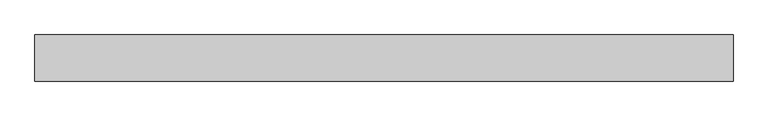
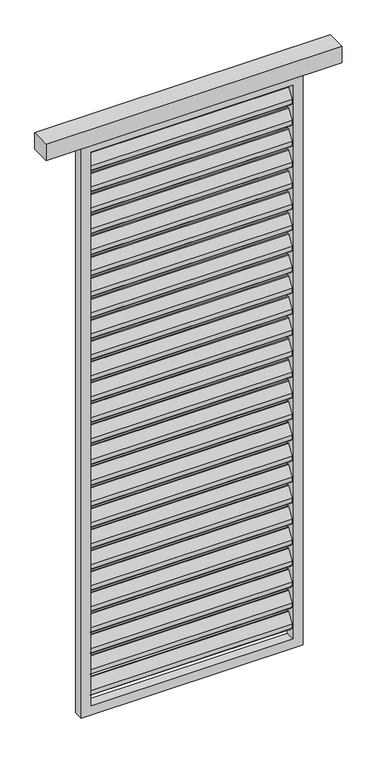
"""IFC4 building model written with IfcOpenShell, lengths in millimetres: proxy geometry."""

from ifc_helpers import new_model, si_unit, point, frame, frame_2d, origin, place, context, project, spatial, polyline, circle_curve, trimmed, segment, composite_curve, outline, extrude, source, transform, mapped, element, save


def generic_models_514cf80f(model_context):
    return source(origin(), model_context, "Body", "SweptSolid", [
        extrude(outline(polyline([(600.0, 46.0), (600.0, -34.0), (-600.0, -34.0), (-600.0, 46.0), (600.0, 46.0)])), frame((0.0, 0.0, 2500.0), z_axis=(0.0, 0.0, 1.0), x_axis=(1.0, 0.0, 0.0)), (0.0, 0.0, 1.0), 70.0),
        extrude(outline(composite_curve([segment(trimmed(circle_curve(frame_2d((12.6675921, 2432.6587719)), 3.0), [point((10.1515804, 2434.292689))], [point((15.6675921, 2432.6587719))], False, "CARTESIAN"), True, "CONTINUOUS"), segment(polyline([(15.6675921, 2432.6587719), (15.6675921, 2414.2979873)]), True, "CONTINUOUS"), segment(trimmed(circle_curve(frame_2d((12.6675921, 2414.2979873)), 3.0), [point((15.6675921, 2414.2979873))], [point((15.1836038, 2412.6640702))], False, "CARTESIAN"), True, "CONTINUOUS"), segment(polyline([(15.1836038, 2412.6640702), (-8.8163962, 2375.707311)]), True, "CONTINUOUS"), segment(trimmed(circle_curve(frame_2d((-11.3324079, 2377.3412281)), 3.0), [point((-8.8163962, 2375.707311))], [point((-14.3324079, 2377.3412281))], False, "CARTESIAN"), True, "CONTINUOUS"), segment(polyline([(-14.3324079, 2377.3412281), (-14.3324079, 2396.5906532), (10.1515804, 2434.292689)]), True, "CONTINUOUS")], self_intersect=False)), frame((-410.0, 0.0, 0.0), z_axis=(1.0, 0.0, 0.0), x_axis=(0.0, 1.0, 0.0)), (0.0, 0.0, 1.0), 820.0),
        extrude(outline(composite_curve([segment(trimmed(circle_curve(frame_2d((12.6675921, 2342.6587719)), 3.0), [point((10.1515804, 2344.292689))], [point((15.6675921, 2342.6587719))], False, "CARTESIAN"), True, "CONTINUOUS"), segment(polyline([(15.6675921, 2342.6587719), (15.6675921, 2324.2979873)]), True, "CONTINUOUS"), segment(trimmed(circle_curve(frame_2d((12.6675921, 2324.2979873)), 3.0), [point((15.6675921, 2324.2979873))], [point((15.1836038, 2322.6640702))], False, "CARTESIAN"), True, "CONTINUOUS"), segment(polyline([(15.1836038, 2322.6640702), (-8.8163962, 2285.707311)]), True, "CONTINUOUS"), segment(trimmed(circle_curve(frame_2d((-11.3324079, 2287.3412281)), 3.0), [point((-8.8163962, 2285.707311))], [point((-14.3324079, 2287.3412281))], False, "CARTESIAN"), True, "CONTINUOUS"), segment(polyline([(-14.3324079, 2287.3412281), (-14.3324079, 2306.5906532), (10.1515804, 2344.292689)]), True, "CONTINUOUS")], self_intersect=False)), frame((-410.0, 0.0, 0.0), z_axis=(1.0, 0.0, 0.0), x_axis=(0.0, 1.0, 0.0)), (0.0, 0.0, 1.0), 820.0),
        extrude(outline(composite_curve([segment(trimmed(circle_curve(frame_2d((12.6675921, 2252.6587719)), 3.0), [point((10.1515804, 2254.292689))], [point((15.6675921, 2252.6587719))], False, "CARTESIAN"), True, "CONTINUOUS"), segment(polyline([(15.6675921, 2252.6587719), (15.6675921, 2234.2979873)]), True, "CONTINUOUS"), segment(trimmed(circle_curve(frame_2d((12.6675921, 2234.2979873)), 3.0), [point((15.6675921, 2234.2979873))], [point((15.1836038, 2232.6640702))], False, "CARTESIAN"), True, "CONTINUOUS"), segment(polyline([(15.1836038, 2232.6640702), (-8.8163962, 2195.707311)]), True, "CONTINUOUS"), segment(trimmed(circle_curve(frame_2d((-11.3324079, 2197.3412281)), 3.0), [point((-8.8163962, 2195.707311))], [point((-14.3324079, 2197.3412281))], False, "CARTESIAN"), True, "CONTINUOUS"), segment(polyline([(-14.3324079, 2197.3412281), (-14.3324079, 2216.5906532), (10.1515804, 2254.292689)]), True, "CONTINUOUS")], self_intersect=False)), frame((-410.0, 0.0, 0.0), z_axis=(1.0, 0.0, 0.0), x_axis=(0.0, 1.0, 0.0)), (0.0, 0.0, 1.0), 820.0),
        extrude(outline(composite_curve([segment(trimmed(circle_curve(frame_2d((12.6675921, 2162.6587719)), 3.0), [point((10.1515804, 2164.292689))], [point((15.6675921, 2162.6587719))], False, "CARTESIAN"), True, "CONTINUOUS"), segment(polyline([(15.6675921, 2162.6587719), (15.6675921, 2144.2979873)]), True, "CONTINUOUS"), segment(trimmed(circle_curve(frame_2d((12.6675921, 2144.2979873)), 3.0), [point((15.6675921, 2144.2979873))], [point((15.1836038, 2142.6640702))], False, "CARTESIAN"), True, "CONTINUOUS"), segment(polyline([(15.1836038, 2142.6640702), (-8.8163962, 2105.707311)]), True, "CONTINUOUS"), segment(trimmed(circle_curve(frame_2d((-11.3324079, 2107.3412281)), 3.0), [point((-8.8163962, 2105.707311))], [point((-14.3324079, 2107.3412281))], False, "CARTESIAN"), True, "CONTINUOUS"), segment(polyline([(-14.3324079, 2107.3412281), (-14.3324079, 2126.5906532), (10.1515804, 2164.292689)]), True, "CONTINUOUS")], self_intersect=False)), frame((-410.0, 0.0, 0.0), z_axis=(1.0, 0.0, 0.0), x_axis=(0.0, 1.0, 0.0)), (0.0, 0.0, 1.0), 820.0),
        extrude(outline(composite_curve([segment(trimmed(circle_curve(frame_2d((12.6675921, 2072.6587719)), 3.0), [point((10.1515804, 2074.292689))], [point((15.6675921, 2072.6587719))], False, "CARTESIAN"), True, "CONTINUOUS"), segment(polyline([(15.6675921, 2072.6587719), (15.6675921, 2054.2979873)]), True, "CONTINUOUS"), segment(trimmed(circle_curve(frame_2d((12.6675921, 2054.2979873)), 3.0), [point((15.6675921, 2054.2979873))], [point((15.1836038, 2052.6640702))], False, "CARTESIAN"), True, "CONTINUOUS"), segment(polyline([(15.1836038, 2052.6640702), (-8.8163962, 2015.707311)]), True, "CONTINUOUS"), segment(trimmed(circle_curve(frame_2d((-11.3324079, 2017.3412281)), 3.0), [point((-8.8163962, 2015.707311))], [point((-14.3324079, 2017.3412281))], False, "CARTESIAN"), True, "CONTINUOUS"), segment(polyline([(-14.3324079, 2017.3412281), (-14.3324079, 2036.5906532), (10.1515804, 2074.292689)]), True, "CONTINUOUS")], self_intersect=False)), frame((-410.0, 0.0, 0.0), z_axis=(1.0, 0.0, 0.0), x_axis=(0.0, 1.0, 0.0)), (0.0, 0.0, 1.0), 820.0),
        extrude(outline(composite_curve([segment(trimmed(circle_curve(frame_2d((12.6675921, 1982.6587719)), 3.0), [point((10.1515804, 1984.292689))], [point((15.6675921, 1982.6587719))], False, "CARTESIAN"), True, "CONTINUOUS"), segment(polyline([(15.6675921, 1982.6587719), (15.6675921, 1964.2979873)]), True, "CONTINUOUS"), segment(trimmed(circle_curve(frame_2d((12.6675921, 1964.2979873)), 3.0), [point((15.6675921, 1964.2979873))], [point((15.1836038, 1962.6640702))], False, "CARTESIAN"), True, "CONTINUOUS"), segment(polyline([(15.1836038, 1962.6640702), (-8.8163962, 1925.707311)]), True, "CONTINUOUS"), segment(trimmed(circle_curve(frame_2d((-11.3324079, 1927.3412281)), 3.0), [point((-8.8163962, 1925.707311))], [point((-14.3324079, 1927.3412281))], False, "CARTESIAN"), True, "CONTINUOUS"), segment(polyline([(-14.3324079, 1927.3412281), (-14.3324079, 1946.5906532), (10.1515804, 1984.292689)]), True, "CONTINUOUS")], self_intersect=False)), frame((-410.0, 0.0, 0.0), z_axis=(1.0, 0.0, 0.0), x_axis=(0.0, 1.0, 0.0)), (0.0, 0.0, 1.0), 820.0),
        extrude(outline(composite_curve([segment(trimmed(circle_curve(frame_2d((12.6675921, 1892.6587719)), 3.0), [point((10.1515804, 1894.292689))], [point((15.6675921, 1892.6587719))], False, "CARTESIAN"), True, "CONTINUOUS"), segment(polyline([(15.6675921, 1892.6587719), (15.6675921, 1874.2979873)]), True, "CONTINUOUS"), segment(trimmed(circle_curve(frame_2d((12.6675921, 1874.2979873)), 3.0), [point((15.6675921, 1874.2979873))], [point((15.1836038, 1872.6640702))], False, "CARTESIAN"), True, "CONTINUOUS"), segment(polyline([(15.1836038, 1872.6640702), (-8.8163962, 1835.707311)]), True, "CONTINUOUS"), segment(trimmed(circle_curve(frame_2d((-11.3324079, 1837.3412281)), 3.0), [point((-8.8163962, 1835.707311))], [point((-14.3324079, 1837.3412281))], False, "CARTESIAN"), True, "CONTINUOUS"), segment(polyline([(-14.3324079, 1837.3412281), (-14.3324079, 1856.5906532), (10.1515804, 1894.292689)]), True, "CONTINUOUS")], self_intersect=False)), frame((-410.0, 0.0, 0.0), z_axis=(1.0, 0.0, 0.0), x_axis=(0.0, 1.0, 0.0)), (0.0, 0.0, 1.0), 820.0),
        extrude(outline(composite_curve([segment(trimmed(circle_curve(frame_2d((12.6675921, 1802.6587719)), 3.0), [point((10.1515804, 1804.292689))], [point((15.6675921, 1802.6587719))], False, "CARTESIAN"), True, "CONTINUOUS"), segment(polyline([(15.6675921, 1802.6587719), (15.6675921, 1784.2979873)]), True, "CONTINUOUS"), segment(trimmed(circle_curve(frame_2d((12.6675921, 1784.2979873)), 3.0), [point((15.6675921, 1784.2979873))], [point((15.1836038, 1782.6640702))], False, "CARTESIAN"), True, "CONTINUOUS"), segment(polyline([(15.1836038, 1782.6640702), (-8.8163962, 1745.707311)]), True, "CONTINUOUS"), segment(trimmed(circle_curve(frame_2d((-11.3324079, 1747.3412281)), 3.0), [point((-8.8163962, 1745.707311))], [point((-14.3324079, 1747.3412281))], False, "CARTESIAN"), True, "CONTINUOUS"), segment(polyline([(-14.3324079, 1747.3412281), (-14.3324079, 1766.5906532), (10.1515804, 1804.292689)]), True, "CONTINUOUS")], self_intersect=False)), frame((-410.0, 0.0, 0.0), z_axis=(1.0, 0.0, 0.0), x_axis=(0.0, 1.0, 0.0)), (0.0, 0.0, 1.0), 820.0),
        extrude(outline(composite_curve([segment(trimmed(circle_curve(frame_2d((12.6675921, 1712.6587719)), 3.0), [point((10.1515804, 1714.292689))], [point((15.6675921, 1712.6587719))], False, "CARTESIAN"), True, "CONTINUOUS"), segment(polyline([(15.6675921, 1712.6587719), (15.6675921, 1694.2979873)]), True, "CONTINUOUS"), segment(trimmed(circle_curve(frame_2d((12.6675921, 1694.2979873)), 3.0), [point((15.6675921, 1694.2979873))], [point((15.1836038, 1692.6640702))], False, "CARTESIAN"), True, "CONTINUOUS"), segment(polyline([(15.1836038, 1692.6640702), (-8.8163962, 1655.707311)]), True, "CONTINUOUS"), segment(trimmed(circle_curve(frame_2d((-11.3324079, 1657.3412281)), 3.0), [point((-8.8163962, 1655.707311))], [point((-14.3324079, 1657.3412281))], False, "CARTESIAN"), True, "CONTINUOUS"), segment(polyline([(-14.3324079, 1657.3412281), (-14.3324079, 1676.5906532), (10.1515804, 1714.292689)]), True, "CONTINUOUS")], self_intersect=False)), frame((-410.0, 0.0, 0.0), z_axis=(1.0, 0.0, 0.0), x_axis=(0.0, 1.0, 0.0)), (0.0, 0.0, 1.0), 820.0),
        extrude(outline(composite_curve([segment(trimmed(circle_curve(frame_2d((12.6675921, 1622.6587719)), 3.0), [point((10.1515804, 1624.292689))], [point((15.6675921, 1622.6587719))], False, "CARTESIAN"), True, "CONTINUOUS"), segment(polyline([(15.6675921, 1622.6587719), (15.6675921, 1604.2979873)]), True, "CONTINUOUS"), segment(trimmed(circle_curve(frame_2d((12.6675921, 1604.2979873)), 3.0), [point((15.6675921, 1604.2979873))], [point((15.1836038, 1602.6640702))], False, "CARTESIAN"), True, "CONTINUOUS"), segment(polyline([(15.1836038, 1602.6640702), (-8.8163962, 1565.707311)]), True, "CONTINUOUS"), segment(trimmed(circle_curve(frame_2d((-11.3324079, 1567.3412281)), 3.0), [point((-8.8163962, 1565.707311))], [point((-14.3324079, 1567.3412281))], False, "CARTESIAN"), True, "CONTINUOUS"), segment(polyline([(-14.3324079, 1567.3412281), (-14.3324079, 1586.5906532), (10.1515804, 1624.292689)]), True, "CONTINUOUS")], self_intersect=False)), frame((-410.0, 0.0, 0.0), z_axis=(1.0, 0.0, 0.0), x_axis=(0.0, 1.0, 0.0)), (0.0, 0.0, 1.0), 820.0),
        extrude(outline(composite_curve([segment(trimmed(circle_curve(frame_2d((12.6675921, 1532.6587719)), 3.0), [point((10.1515804, 1534.292689))], [point((15.6675921, 1532.6587719))], False, "CARTESIAN"), True, "CONTINUOUS"), segment(polyline([(15.6675921, 1532.6587719), (15.6675921, 1514.2979873)]), True, "CONTINUOUS"), segment(trimmed(circle_curve(frame_2d((12.6675921, 1514.2979873)), 3.0), [point((15.6675921, 1514.2979873))], [point((15.1836038, 1512.6640702))], False, "CARTESIAN"), True, "CONTINUOUS"), segment(polyline([(15.1836038, 1512.6640702), (-8.8163962, 1475.707311)]), True, "CONTINUOUS"), segment(trimmed(circle_curve(frame_2d((-11.3324079, 1477.3412281)), 3.0), [point((-8.8163962, 1475.707311))], [point((-14.3324079, 1477.3412281))], False, "CARTESIAN"), True, "CONTINUOUS"), segment(polyline([(-14.3324079, 1477.3412281), (-14.3324079, 1496.5906532), (10.1515804, 1534.292689)]), True, "CONTINUOUS")], self_intersect=False)), frame((-410.0, 0.0, 0.0), z_axis=(1.0, 0.0, 0.0), x_axis=(0.0, 1.0, 0.0)), (0.0, 0.0, 1.0), 820.0),
        extrude(outline(composite_curve([segment(trimmed(circle_curve(frame_2d((12.6675921, 1442.6587719)), 3.0), [point((10.1515804, 1444.292689))], [point((15.6675921, 1442.6587719))], False, "CARTESIAN"), True, "CONTINUOUS"), segment(polyline([(15.6675921, 1442.6587719), (15.6675921, 1424.2979873)]), True, "CONTINUOUS"), segment(trimmed(circle_curve(frame_2d((12.6675921, 1424.2979873)), 3.0), [point((15.6675921, 1424.2979873))], [point((15.1836038, 1422.6640702))], False, "CARTESIAN"), True, "CONTINUOUS"), segment(polyline([(15.1836038, 1422.6640702), (-8.8163962, 1385.707311)]), True, "CONTINUOUS"), segment(trimmed(circle_curve(frame_2d((-11.3324079, 1387.3412281)), 3.0), [point((-8.8163962, 1385.707311))], [point((-14.3324079, 1387.3412281))], False, "CARTESIAN"), True, "CONTINUOUS"), segment(polyline([(-14.3324079, 1387.3412281), (-14.3324079, 1406.5906532), (10.1515804, 1444.292689)]), True, "CONTINUOUS")], self_intersect=False)), frame((-410.0, 0.0, 0.0), z_axis=(1.0, 0.0, 0.0), x_axis=(0.0, 1.0, 0.0)), (0.0, 0.0, 1.0), 820.0),
        extrude(outline(composite_curve([segment(trimmed(circle_curve(frame_2d((12.6675921, 1352.6587719)), 3.0), [point((10.1515804, 1354.292689))], [point((15.6675921, 1352.6587719))], False, "CARTESIAN"), True, "CONTINUOUS"), segment(polyline([(15.6675921, 1352.6587719), (15.6675921, 1334.2979873)]), True, "CONTINUOUS"), segment(trimmed(circle_curve(frame_2d((12.6675921, 1334.2979873)), 3.0), [point((15.6675921, 1334.2979873))], [point((15.1836038, 1332.6640702))], False, "CARTESIAN"), True, "CONTINUOUS"), segment(polyline([(15.1836038, 1332.6640702), (-8.8163962, 1295.707311)]), True, "CONTINUOUS"), segment(trimmed(circle_curve(frame_2d((-11.3324079, 1297.3412281)), 3.0), [point((-8.8163962, 1295.707311))], [point((-14.3324079, 1297.3412281))], False, "CARTESIAN"), True, "CONTINUOUS"), segment(polyline([(-14.3324079, 1297.3412281), (-14.3324079, 1316.5906532), (10.1515804, 1354.292689)]), True, "CONTINUOUS")], self_intersect=False)), frame((-410.0, 0.0, 0.0), z_axis=(1.0, 0.0, 0.0), x_axis=(0.0, 1.0, 0.0)), (0.0, 0.0, 1.0), 820.0),
        extrude(outline(composite_curve([segment(trimmed(circle_curve(frame_2d((12.6675921, 1262.6587719)), 3.0), [point((10.1515804, 1264.292689))], [point((15.6675921, 1262.6587719))], False, "CARTESIAN"), True, "CONTINUOUS"), segment(polyline([(15.6675921, 1262.6587719), (15.6675921, 1244.2979873)]), True, "CONTINUOUS"), segment(trimmed(circle_curve(frame_2d((12.6675921, 1244.2979873)), 3.0), [point((15.6675921, 1244.2979873))], [point((15.1836038, 1242.6640702))], False, "CARTESIAN"), True, "CONTINUOUS"), segment(polyline([(15.1836038, 1242.6640702), (-8.8163962, 1205.707311)]), True, "CONTINUOUS"), segment(trimmed(circle_curve(frame_2d((-11.3324079, 1207.3412281)), 3.0), [point((-8.8163962, 1205.707311))], [point((-14.3324079, 1207.3412281))], False, "CARTESIAN"), True, "CONTINUOUS"), segment(polyline([(-14.3324079, 1207.3412281), (-14.3324079, 1226.5906532), (10.1515804, 1264.292689)]), True, "CONTINUOUS")], self_intersect=False)), frame((-410.0, 0.0, 0.0), z_axis=(1.0, 0.0, 0.0), x_axis=(0.0, 1.0, 0.0)), (0.0, 0.0, 1.0), 820.0),
        extrude(outline(composite_curve([segment(trimmed(circle_curve(frame_2d((12.6675921, 1172.6587719)), 3.0), [point((10.1515804, 1174.292689))], [point((15.6675921, 1172.6587719))], False, "CARTESIAN"), True, "CONTINUOUS"), segment(polyline([(15.6675921, 1172.6587719), (15.6675921, 1154.2979873)]), True, "CONTINUOUS"), segment(trimmed(circle_curve(frame_2d((12.6675921, 1154.2979873)), 3.0), [point((15.6675921, 1154.2979873))], [point((15.1836038, 1152.6640702))], False, "CARTESIAN"), True, "CONTINUOUS"), segment(polyline([(15.1836038, 1152.6640702), (-8.8163962, 1115.707311)]), True, "CONTINUOUS"), segment(trimmed(circle_curve(frame_2d((-11.3324079, 1117.3412281)), 3.0), [point((-8.8163962, 1115.707311))], [point((-14.3324079, 1117.3412281))], False, "CARTESIAN"), True, "CONTINUOUS"), segment(polyline([(-14.3324079, 1117.3412281), (-14.3324079, 1136.5906532), (10.1515804, 1174.292689)]), True, "CONTINUOUS")], self_intersect=False)), frame((-410.0, 0.0, 0.0), z_axis=(1.0, 0.0, 0.0), x_axis=(0.0, 1.0, 0.0)), (0.0, 0.0, 1.0), 820.0),
        extrude(outline(composite_curve([segment(trimmed(circle_curve(frame_2d((12.6675921, 1082.6587719)), 3.0), [point((10.1515804, 1084.292689))], [point((15.6675921, 1082.6587719))], False, "CARTESIAN"), True, "CONTINUOUS"), segment(polyline([(15.6675921, 1082.6587719), (15.6675921, 1064.2979873)]), True, "CONTINUOUS"), segment(trimmed(circle_curve(frame_2d((12.6675921, 1064.2979873)), 3.0), [point((15.6675921, 1064.2979873))], [point((15.1836038, 1062.6640702))], False, "CARTESIAN"), True, "CONTINUOUS"), segment(polyline([(15.1836038, 1062.6640702), (-8.8163962, 1025.707311)]), True, "CONTINUOUS"), segment(trimmed(circle_curve(frame_2d((-11.3324079, 1027.3412281)), 3.0), [point((-8.8163962, 1025.707311))], [point((-14.3324079, 1027.3412281))], False, "CARTESIAN"), True, "CONTINUOUS"), segment(polyline([(-14.3324079, 1027.3412281), (-14.3324079, 1046.5906532), (10.1515804, 1084.292689)]), True, "CONTINUOUS")], self_intersect=False)), frame((-410.0, 0.0, 0.0), z_axis=(1.0, 0.0, 0.0), x_axis=(0.0, 1.0, 0.0)), (0.0, 0.0, 1.0), 820.0),
        extrude(outline(composite_curve([segment(trimmed(circle_curve(frame_2d((12.6675921, 992.6587719)), 3.0), [point((10.1515804, 994.292689))], [point((15.6675921, 992.6587719))], False, "CARTESIAN"), True, "CONTINUOUS"), segment(polyline([(15.6675921, 992.6587719), (15.6675921, 974.2979873)]), True, "CONTINUOUS"), segment(trimmed(circle_curve(frame_2d((12.6675921, 974.2979873)), 3.0), [point((15.6675921, 974.2979873))], [point((15.1836038, 972.6640702))], False, "CARTESIAN"), True, "CONTINUOUS"), segment(polyline([(15.1836038, 972.6640702), (-8.8163962, 935.707311)]), True, "CONTINUOUS"), segment(trimmed(circle_curve(frame_2d((-11.3324079, 937.3412281)), 3.0), [point((-8.8163962, 935.707311))], [point((-14.3324079, 937.3412281))], False, "CARTESIAN"), True, "CONTINUOUS"), segment(polyline([(-14.3324079, 937.3412281), (-14.3324079, 956.5906532), (10.1515804, 994.292689)]), True, "CONTINUOUS")], self_intersect=False)), frame((-410.0, 0.0, 0.0), z_axis=(1.0, 0.0, 0.0), x_axis=(0.0, 1.0, 0.0)), (0.0, 0.0, 1.0), 820.0),
        extrude(outline(composite_curve([segment(trimmed(circle_curve(frame_2d((12.6675921, 902.6587719)), 3.0), [point((10.1515804, 904.292689))], [point((15.6675921, 902.6587719))], False, "CARTESIAN"), True, "CONTINUOUS"), segment(polyline([(15.6675921, 902.6587719), (15.6675921, 884.2979873)]), True, "CONTINUOUS"), segment(trimmed(circle_curve(frame_2d((12.6675921, 884.2979873)), 3.0), [point((15.6675921, 884.2979873))], [point((15.1836038, 882.6640702))], False, "CARTESIAN"), True, "CONTINUOUS"), segment(polyline([(15.1836038, 882.6640702), (-8.8163962, 845.707311)]), True, "CONTINUOUS"), segment(trimmed(circle_curve(frame_2d((-11.3324079, 847.3412281)), 3.0), [point((-8.8163962, 845.707311))], [point((-14.3324079, 847.3412281))], False, "CARTESIAN"), True, "CONTINUOUS"), segment(polyline([(-14.3324079, 847.3412281), (-14.3324079, 866.5906532), (10.1515804, 904.292689)]), True, "CONTINUOUS")], self_intersect=False)), frame((-410.0, 0.0, 0.0), z_axis=(1.0, 0.0, 0.0), x_axis=(0.0, 1.0, 0.0)), (0.0, 0.0, 1.0), 820.0),
        extrude(outline(composite_curve([segment(trimmed(circle_curve(frame_2d((12.6675921, 812.6587719)), 3.0), [point((10.1515804, 814.292689))], [point((15.6675921, 812.6587719))], False, "CARTESIAN"), True, "CONTINUOUS"), segment(polyline([(15.6675921, 812.6587719), (15.6675921, 794.2979873)]), True, "CONTINUOUS"), segment(trimmed(circle_curve(frame_2d((12.6675921, 794.2979873)), 3.0), [point((15.6675921, 794.2979873))], [point((15.1836038, 792.6640702))], False, "CARTESIAN"), True, "CONTINUOUS"), segment(polyline([(15.1836038, 792.6640702), (-8.8163962, 755.707311)]), True, "CONTINUOUS"), segment(trimmed(circle_curve(frame_2d((-11.3324079, 757.3412281)), 3.0), [point((-8.8163962, 755.707311))], [point((-14.3324079, 757.3412281))], False, "CARTESIAN"), True, "CONTINUOUS"), segment(polyline([(-14.3324079, 757.3412281), (-14.3324079, 776.5906532), (10.1515804, 814.292689)]), True, "CONTINUOUS")], self_intersect=False)), frame((-410.0, 0.0, 0.0), z_axis=(1.0, 0.0, 0.0), x_axis=(0.0, 1.0, 0.0)), (0.0, 0.0, 1.0), 820.0),
        extrude(outline(composite_curve([segment(trimmed(circle_curve(frame_2d((12.6675921, 722.6587719)), 3.0), [point((10.1515804, 724.292689))], [point((15.6675921, 722.6587719))], False, "CARTESIAN"), True, "CONTINUOUS"), segment(polyline([(15.6675921, 722.6587719), (15.6675921, 704.2979873)]), True, "CONTINUOUS"), segment(trimmed(circle_curve(frame_2d((12.6675921, 704.2979873)), 3.0), [point((15.6675921, 704.2979873))], [point((15.1836038, 702.6640702))], False, "CARTESIAN"), True, "CONTINUOUS"), segment(polyline([(15.1836038, 702.6640702), (-8.8163962, 665.707311)]), True, "CONTINUOUS"), segment(trimmed(circle_curve(frame_2d((-11.3324079, 667.3412281)), 3.0), [point((-8.8163962, 665.707311))], [point((-14.3324079, 667.3412281))], False, "CARTESIAN"), True, "CONTINUOUS"), segment(polyline([(-14.3324079, 667.3412281), (-14.3324079, 686.5906532), (10.1515804, 724.292689)]), True, "CONTINUOUS")], self_intersect=False)), frame((-410.0, 0.0, 0.0), z_axis=(1.0, 0.0, 0.0), x_axis=(0.0, 1.0, 0.0)), (0.0, 0.0, 1.0), 820.0),
        extrude(outline(composite_curve([segment(trimmed(circle_curve(frame_2d((12.6675921, 632.6587719)), 3.0), [point((10.1515804, 634.292689))], [point((15.6675921, 632.6587719))], False, "CARTESIAN"), True, "CONTINUOUS"), segment(polyline([(15.6675921, 632.6587719), (15.6675921, 614.2979873)]), True, "CONTINUOUS"), segment(trimmed(circle_curve(frame_2d((12.6675921, 614.2979873)), 3.0), [point((15.6675921, 614.2979873))], [point((15.1836038, 612.6640702))], False, "CARTESIAN"), True, "CONTINUOUS"), segment(polyline([(15.1836038, 612.6640702), (-8.8163962, 575.707311)]), True, "CONTINUOUS"), segment(trimmed(circle_curve(frame_2d((-11.3324079, 577.3412281)), 3.0), [point((-8.8163962, 575.707311))], [point((-14.3324079, 577.3412281))], False, "CARTESIAN"), True, "CONTINUOUS"), segment(polyline([(-14.3324079, 577.3412281), (-14.3324079, 596.5906532), (10.1515804, 634.292689)]), True, "CONTINUOUS")], self_intersect=False)), frame((-410.0, 0.0, 0.0), z_axis=(1.0, 0.0, 0.0), x_axis=(0.0, 1.0, 0.0)), (0.0, 0.0, 1.0), 820.0),
        extrude(outline(composite_curve([segment(trimmed(circle_curve(frame_2d((12.6675921, 542.6587719)), 3.0), [point((10.1515804, 544.292689))], [point((15.6675921, 542.6587719))], False, "CARTESIAN"), True, "CONTINUOUS"), segment(polyline([(15.6675921, 542.6587719), (15.6675921, 524.2979873)]), True, "CONTINUOUS"), segment(trimmed(circle_curve(frame_2d((12.6675921, 524.2979873)), 3.0), [point((15.6675921, 524.2979873))], [point((15.1836038, 522.6640702))], False, "CARTESIAN"), True, "CONTINUOUS"), segment(polyline([(15.1836038, 522.6640702), (-8.8163962, 485.707311)]), True, "CONTINUOUS"), segment(trimmed(circle_curve(frame_2d((-11.3324079, 487.3412281)), 3.0), [point((-8.8163962, 485.707311))], [point((-14.3324079, 487.3412281))], False, "CARTESIAN"), True, "CONTINUOUS"), segment(polyline([(-14.3324079, 487.3412281), (-14.3324079, 506.5906532), (10.1515804, 544.292689)]), True, "CONTINUOUS")], self_intersect=False)), frame((-410.0, 0.0, 0.0), z_axis=(1.0, 0.0, 0.0), x_axis=(0.0, 1.0, 0.0)), (0.0, 0.0, 1.0), 820.0),
        extrude(outline(composite_curve([segment(trimmed(circle_curve(frame_2d((12.6675921, 452.6587719)), 3.0), [point((10.1515804, 454.292689))], [point((15.6675921, 452.6587719))], False, "CARTESIAN"), True, "CONTINUOUS"), segment(polyline([(15.6675921, 452.6587719), (15.6675921, 434.2979873)]), True, "CONTINUOUS"), segment(trimmed(circle_curve(frame_2d((12.6675921, 434.2979873)), 3.0), [point((15.6675921, 434.2979873))], [point((15.1836038, 432.6640702))], False, "CARTESIAN"), True, "CONTINUOUS"), segment(polyline([(15.1836038, 432.6640702), (-8.8163962, 395.707311)]), True, "CONTINUOUS"), segment(trimmed(circle_curve(frame_2d((-11.3324079, 397.3412281)), 3.0), [point((-8.8163962, 395.707311))], [point((-14.3324079, 397.3412281))], False, "CARTESIAN"), True, "CONTINUOUS"), segment(polyline([(-14.3324079, 397.3412281), (-14.3324079, 416.5906532), (10.1515804, 454.292689)]), True, "CONTINUOUS")], self_intersect=False)), frame((-410.0, 0.0, 0.0), z_axis=(1.0, 0.0, 0.0), x_axis=(0.0, 1.0, 0.0)), (0.0, 0.0, 1.0), 820.0),
        extrude(outline(composite_curve([segment(trimmed(circle_curve(frame_2d((12.6675921, 362.6587719)), 3.0), [point((10.1515804, 364.292689))], [point((15.6675921, 362.6587719))], False, "CARTESIAN"), True, "CONTINUOUS"), segment(polyline([(15.6675921, 362.6587719), (15.6675921, 344.2979873)]), True, "CONTINUOUS"), segment(trimmed(circle_curve(frame_2d((12.6675921, 344.2979873)), 3.0), [point((15.6675921, 344.2979873))], [point((15.1836038, 342.6640702))], False, "CARTESIAN"), True, "CONTINUOUS"), segment(polyline([(15.1836038, 342.6640702), (-8.8163962, 305.707311)]), True, "CONTINUOUS"), segment(trimmed(circle_curve(frame_2d((-11.3324079, 307.3412281)), 3.0), [point((-8.8163962, 305.707311))], [point((-14.3324079, 307.3412281))], False, "CARTESIAN"), True, "CONTINUOUS"), segment(polyline([(-14.3324079, 307.3412281), (-14.3324079, 326.5906532), (10.1515804, 364.292689)]), True, "CONTINUOUS")], self_intersect=False)), frame((-410.0, 0.0, 0.0), z_axis=(1.0, 0.0, 0.0), x_axis=(0.0, 1.0, 0.0)), (0.0, 0.0, 1.0), 820.0),
        extrude(outline(composite_curve([segment(trimmed(circle_curve(frame_2d((12.6675921, 272.6587719)), 3.0), [point((10.1515804, 274.292689))], [point((15.6675921, 272.6587719))], False, "CARTESIAN"), True, "CONTINUOUS"), segment(polyline([(15.6675921, 272.6587719), (15.6675921, 254.2979873)]), True, "CONTINUOUS"), segment(trimmed(circle_curve(frame_2d((12.6675921, 254.2979873)), 3.0), [point((15.6675921, 254.2979873))], [point((15.1836038, 252.6640702))], False, "CARTESIAN"), True, "CONTINUOUS"), segment(polyline([(15.1836038, 252.6640702), (-8.8163962, 215.707311)]), True, "CONTINUOUS"), segment(trimmed(circle_curve(frame_2d((-11.3324079, 217.3412281)), 3.0), [point((-8.8163962, 215.707311))], [point((-14.3324079, 217.3412281))], False, "CARTESIAN"), True, "CONTINUOUS"), segment(polyline([(-14.3324079, 217.3412281), (-14.3324079, 236.5906532), (10.1515804, 274.292689)]), True, "CONTINUOUS")], self_intersect=False)), frame((-410.0, 0.0, 0.0), z_axis=(1.0, 0.0, 0.0), x_axis=(0.0, 1.0, 0.0)), (0.0, 0.0, 1.0), 820.0),
        extrude(outline(composite_curve([segment(trimmed(circle_curve(frame_2d((12.6675921, 182.6587719)), 3.0), [point((10.1515804, 184.292689))], [point((15.6675921, 182.6587719))], False, "CARTESIAN"), True, "CONTINUOUS"), segment(polyline([(15.6675921, 182.6587719), (15.6675921, 164.2979873)]), True, "CONTINUOUS"), segment(trimmed(circle_curve(frame_2d((12.6675921, 164.2979873)), 3.0), [point((15.6675921, 164.2979873))], [point((15.1836038, 162.6640702))], False, "CARTESIAN"), True, "CONTINUOUS"), segment(polyline([(15.1836038, 162.6640702), (-8.8163962, 125.707311)]), True, "CONTINUOUS"), segment(trimmed(circle_curve(frame_2d((-11.3324079, 127.3412281)), 3.0), [point((-8.8163962, 125.707311))], [point((-14.3324079, 127.3412281))], False, "CARTESIAN"), True, "CONTINUOUS"), segment(polyline([(-14.3324079, 127.3412281), (-14.3324079, 146.5906532), (10.1515804, 184.292689)]), True, "CONTINUOUS")], self_intersect=False)), frame((-410.0, 0.0, 0.0), z_axis=(1.0, 0.0, 0.0), x_axis=(0.0, 1.0, 0.0)), (0.0, 0.0, 1.0), 820.0),
        extrude(outline(polyline([(2500.0, -450.0), (45.0, -450.0), (45.0, 450.0), (2500.0, 450.0), (2500.0, -450.0)]), holes=[polyline([(2460.0, 410.0), (85.0, 410.0), (85.0, -410.0), (2460.0, -410.0), (2460.0, 410.0)])]), frame((0.0, -20.0, 0.0), z_axis=(0.0, 1.0, 0.0), x_axis=(0.0, 0.0, 1.0)), (0.0, 0.0, 1.0), 40.0),
    ])


if __name__ == "__main__":
    model = new_model("IFC4")
    model_context = context("Model", 3, world=origin())
    ifc_project = project(units=[si_unit("LENGTHUNIT", "METRE", prefix="MILLI")], contexts=[model_context])
    site = spatial("IfcSite", under=ifc_project)
    building = spatial("IfcBuilding", under=site)
    placement = place(None, origin())
    generic_models_shape = generic_models_514cf80f(model_context)
    element("IfcBuildingElementProxy", 1, Name="Generic Models", at=placement, inside=building, context=model_context, shape_type="MappedRepresentation", body=[
        mapped(generic_models_shape, transform((0.0, 0.0, 0.0), x_axis=(1.0, 0.0, 0.0), y_axis=(0.0, 1.0, 0.0), z_axis=(0.0, 0.0, 1.0))),
    ])
    save(model, "model.ifc")
